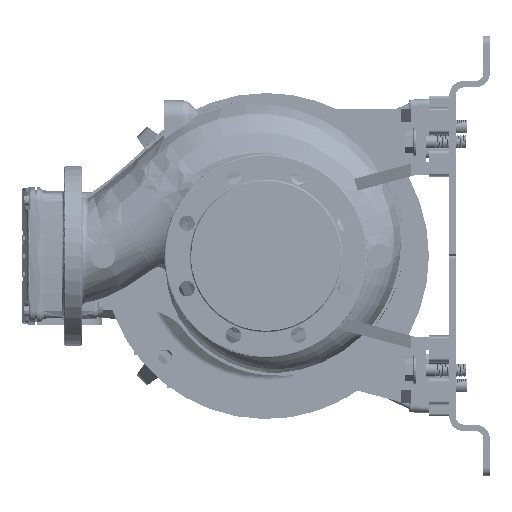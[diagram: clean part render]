
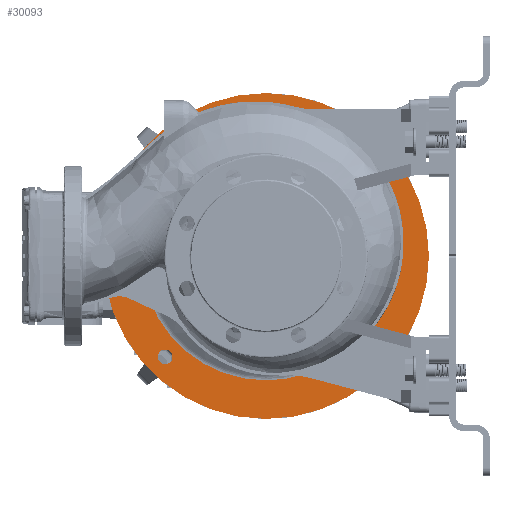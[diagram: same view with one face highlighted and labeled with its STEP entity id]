
A CAD part, left-side view. The second image highlights one B-rep face of the part: STEP entity #30093.
In plain terms, the highlighted planar face has unit normal (-1, 0, 0).
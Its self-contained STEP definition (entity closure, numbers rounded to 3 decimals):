
#229 = CARTESIAN_POINT ( 'NONE',  ( 249., 123.744, 114.745 ) ) ;
#2735 = VERTEX_POINT ( 'NONE', #158953 ) ;
#8495 = VERTEX_POINT ( 'NONE', #102872 ) ;
#9421 = VERTEX_POINT ( 'NONE', #129720 ) ;
#10210 = VERTEX_POINT ( 'NONE', #260631 ) ;
#11589 = EDGE_CURVE ( 'NONE', #8495, #162959, #94295, .T. ) ;
#14947 = CARTESIAN_POINT ( 'NONE',  ( 249., -123.744, 123.745 ) ) ;
#16327 = EDGE_LOOP ( 'NONE', ( #130580, #213344 ) ) ;
#17205 = AXIS2_PLACEMENT_3D ( 'NONE', #23257, #69220, #250083 ) ;
#17397 = CARTESIAN_POINT ( 'NONE',  ( 249., -123.744, -123.743 ) ) ;
#17878 = DIRECTION ( 'NONE',  ( 1., 0., 0. ) ) ;
#18025 = CIRCLE ( 'NONE', #107955, 9. ) ;
#20113 = DIRECTION ( 'NONE',  ( 1., 0., 0. ) ) ;
#20553 = AXIS2_PLACEMENT_3D ( 'NONE', #120957, #279648, #169847 ) ;
#23257 = CARTESIAN_POINT ( 'NONE',  ( 249., 0., 0.001 ) ) ;
#23343 = ORIENTED_EDGE ( 'NONE', *, *, #172162, .T. ) ;
#25852 = DIRECTION ( 'NONE',  ( 0., 0., 1. ) ) ;
#26852 = ORIENTED_EDGE ( 'NONE', *, *, #184901, .T. ) ;
#27019 = DIRECTION ( 'NONE',  ( 0., 0., 1. ) ) ;
#30093 = ADVANCED_FACE ( 'NONE', ( #141722, #97289, #258873, #232175, #52811, #189161 ), #236561, .T. ) ;
#34638 = CARTESIAN_POINT ( 'NONE',  ( 249., -151.792, 16.439 ) ) ;
#39330 = DIRECTION ( 'NONE',  ( 1., 0., 0. ) ) ;
#40557 = AXIS2_PLACEMENT_3D ( 'NONE', #14947, #17878, #172044 ) ;
#40803 = DIRECTION ( 'NONE',  ( 0., 0., 1. ) ) ;
#41234 = CARTESIAN_POINT ( 'NONE',  ( 249., -123.744, 114.745 ) ) ;
#43069 = DIRECTION ( 'NONE',  ( 0., 0., -1. ) ) ;
#46988 = CIRCLE ( 'NONE', #250605, 152.679 ) ;
#48656 = VERTEX_POINT ( 'NONE', #102229 ) ;
#49246 = DIRECTION ( 'NONE',  ( 1., 0., 0. ) ) ;
#52811 = FACE_BOUND ( 'NONE', #208043, .T. ) ;
#53235 = CARTESIAN_POINT ( 'NONE',  ( 249., -123.744, -132.743 ) ) ;
#63167 = AXIS2_PLACEMENT_3D ( 'NONE', #17397, #107794, #112155 ) ;
#68038 = CARTESIAN_POINT ( 'NONE',  ( 249., 0., 0.001 ) ) ;
#69220 = DIRECTION ( 'NONE',  ( 1., 0., 0. ) ) ;
#73587 = DIRECTION ( 'NONE',  ( 1., 0., 0. ) ) ;
#73796 = CIRCLE ( 'NONE', #40557, 9. ) ;
#79225 = ORIENTED_EDGE ( 'NONE', *, *, #237208, .T. ) ;
#81215 = CIRCLE ( 'NONE', #119072, 152.679 ) ;
#86807 = DIRECTION ( 'NONE',  ( 0., 0., 1. ) ) ;
#88598 = VERTEX_POINT ( 'NONE', #41234 ) ;
#91098 = CIRCLE ( 'NONE', #204699, 9. ) ;
#93739 = EDGE_LOOP ( 'NONE', ( #23343, #147979 ) ) ;
#94009 = CIRCLE ( 'NONE', #183921, 23.5 ) ;
#94295 = CIRCLE ( 'NONE', #217427, 152.679 ) ;
#95812 = DIRECTION ( 'NONE',  ( 0., 0., -1. ) ) ;
#96456 = EDGE_CURVE ( 'NONE', #2735, #252008, #275144, .T. ) ;
#97289 = FACE_BOUND ( 'NONE', #93739, .T. ) ;
#102229 = CARTESIAN_POINT ( 'NONE',  ( 249., -123.744, -114.743 ) ) ;
#102872 = CARTESIAN_POINT ( 'NONE',  ( 249., 0., -152.678 ) ) ;
#103725 = VERTEX_POINT ( 'NONE', #243840 ) ;
#104519 = AXIS2_PLACEMENT_3D ( 'NONE', #68038, #158438, #199987 ) ;
#107794 = DIRECTION ( 'NONE',  ( 1., 0., 0. ) ) ;
#107955 = AXIS2_PLACEMENT_3D ( 'NONE', #222408, #269888, #289208 ) ;
#111872 = CARTESIAN_POINT ( 'NONE',  ( 249., -134.998, 0.001 ) ) ;
#112155 = DIRECTION ( 'NONE',  ( 0., 0., 1. ) ) ;
#115207 = CIRCLE ( 'NONE', #63167, 9. ) ;
#117307 = ORIENTED_EDGE ( 'NONE', *, *, #279714, .T. ) ;
#119072 = AXIS2_PLACEMENT_3D ( 'NONE', #246189, #271381, #43069 ) ;
#119286 = EDGE_LOOP ( 'NONE', ( #136022, #139346 ) ) ;
#120957 = CARTESIAN_POINT ( 'NONE',  ( 249., 200., 0.001 ) ) ;
#122315 = DIRECTION ( 'NONE',  ( 0., 0., -1. ) ) ;
#129720 = CARTESIAN_POINT ( 'NONE',  ( 249., 123.744, 132.745 ) ) ;
#130580 = ORIENTED_EDGE ( 'NONE', *, *, #287646, .T. ) ;
#130694 = VERTEX_POINT ( 'NONE', #53235 ) ;
#136022 = ORIENTED_EDGE ( 'NONE', *, *, #96456, .F. ) ;
#137092 = CARTESIAN_POINT ( 'NONE',  ( 249., 123.744, -123.743 ) ) ;
#138613 = ORIENTED_EDGE ( 'NONE', *, *, #165146, .T. ) ;
#139346 = ORIENTED_EDGE ( 'NONE', *, *, #163252, .F. ) ;
#141722 = FACE_OUTER_BOUND ( 'NONE', #119286, .T. ) ;
#143012 = DIRECTION ( 'NONE',  ( 1., 0., 0. ) ) ;
#143590 = VERTEX_POINT ( 'NONE', #145420 ) ;
#144629 = CARTESIAN_POINT ( 'NONE',  ( 249., 0., 0.001 ) ) ;
#144942 = CIRCLE ( 'NONE', #17205, 200. ) ;
#145420 = CARTESIAN_POINT ( 'NONE',  ( 249., -123.744, 132.745 ) ) ;
#147979 = ORIENTED_EDGE ( 'NONE', *, *, #228026, .T. ) ;
#153436 = CIRCLE ( 'NONE', #252740, 9. ) ;
#158438 = DIRECTION ( 'NONE',  ( 1., 0., 0. ) ) ;
#158953 = CARTESIAN_POINT ( 'NONE',  ( 249., 0., -199.999 ) ) ;
#160750 = DIRECTION ( 'NONE',  ( 1., 0., 0. ) ) ;
#162959 = VERTEX_POINT ( 'NONE', #182550 ) ;
#163252 = EDGE_CURVE ( 'NONE', #252008, #2735, #144942, .T. ) ;
#165125 = CARTESIAN_POINT ( 'NONE',  ( 249., -151.792, -16.437 ) ) ;
#165146 = EDGE_CURVE ( 'NONE', #9421, #216739, #18025, .T. ) ;
#169847 = DIRECTION ( 'NONE',  ( 0., 0., 1. ) ) ;
#170255 = EDGE_CURVE ( 'NONE', #48656, #130694, #284574, .T. ) ;
#172044 = DIRECTION ( 'NONE',  ( 0., 0., 1. ) ) ;
#172162 = EDGE_CURVE ( 'NONE', #10210, #103725, #91098, .T. ) ;
#180184 = AXIS2_PLACEMENT_3D ( 'NONE', #187541, #143012, #278043 ) ;
#182550 = CARTESIAN_POINT ( 'NONE',  ( 249., 0., 152.681 ) ) ;
#183921 = AXIS2_PLACEMENT_3D ( 'NONE', #111872, #39330, #40803 ) ;
#184901 = EDGE_CURVE ( 'NONE', #269237, #274033, #94009, .T. ) ;
#187541 = CARTESIAN_POINT ( 'NONE',  ( 249., -123.744, 123.745 ) ) ;
#189161 = FACE_BOUND ( 'NONE', #285288, .T. ) ;
#192884 = ORIENTED_EDGE ( 'NONE', *, *, #230305, .T. ) ;
#199987 = DIRECTION ( 'NONE',  ( 0., 0., -1. ) ) ;
#201634 = CARTESIAN_POINT ( 'NONE',  ( 249., 0., 200.001 ) ) ;
#202552 = ORIENTED_EDGE ( 'NONE', *, *, #289675, .T. ) ;
#204699 = AXIS2_PLACEMENT_3D ( 'NONE', #137092, #289947, #86807 ) ;
#208043 = EDGE_LOOP ( 'NONE', ( #202552, #247130 ) ) ;
#208953 = AXIS2_PLACEMENT_3D ( 'NONE', #252376, #49246, #27019 ) ;
#213344 = ORIENTED_EDGE ( 'NONE', *, *, #243984, .T. ) ;
#216739 = VERTEX_POINT ( 'NONE', #229 ) ;
#217427 = AXIS2_PLACEMENT_3D ( 'NONE', #144629, #73587, #95812 ) ;
#220260 = CARTESIAN_POINT ( 'NONE',  ( 249., 123.744, 123.745 ) ) ;
#222408 = CARTESIAN_POINT ( 'NONE',  ( 249., 123.744, 123.745 ) ) ;
#227575 = CIRCLE ( 'NONE', #180184, 9. ) ;
#228026 = EDGE_CURVE ( 'NONE', #103725, #10210, #153436, .T. ) ;
#228936 = CARTESIAN_POINT ( 'NONE',  ( 249., 123.744, -123.743 ) ) ;
#230305 = EDGE_CURVE ( 'NONE', #274033, #8495, #46988, .T. ) ;
#232175 = FACE_BOUND ( 'NONE', #16327, .T. ) ;
#234926 = EDGE_LOOP ( 'NONE', ( #117307, #138613 ) ) ;
#234979 = CARTESIAN_POINT ( 'NONE',  ( 249., 0., 0.001 ) ) ;
#236561 = PLANE ( 'NONE',  #20553 ) ;
#237208 = EDGE_CURVE ( 'NONE', #162959, #269237, #81215, .T. ) ;
#243840 = CARTESIAN_POINT ( 'NONE',  ( 249., 123.744, -114.743 ) ) ;
#243984 = EDGE_CURVE ( 'NONE', #143590, #88598, #73796, .T. ) ;
#246189 = CARTESIAN_POINT ( 'NONE',  ( 249., 0., 0.001 ) ) ;
#247130 = ORIENTED_EDGE ( 'NONE', *, *, #170255, .T. ) ;
#250083 = DIRECTION ( 'NONE',  ( 0., 0., -1. ) ) ;
#250605 = AXIS2_PLACEMENT_3D ( 'NONE', #234979, #276620, #122315 ) ;
#252008 = VERTEX_POINT ( 'NONE', #201634 ) ;
#252376 = CARTESIAN_POINT ( 'NONE',  ( 249., -123.744, -123.743 ) ) ;
#252740 = AXIS2_PLACEMENT_3D ( 'NONE', #228936, #160750, #25852 ) ;
#258873 = FACE_BOUND ( 'NONE', #234926, .T. ) ;
#259240 = CIRCLE ( 'NONE', #292469, 9. ) ;
#260631 = CARTESIAN_POINT ( 'NONE',  ( 249., 123.744, -132.743 ) ) ;
#262704 = ORIENTED_EDGE ( 'NONE', *, *, #11589, .T. ) ;
#267736 = DIRECTION ( 'NONE',  ( 0., 0., 1. ) ) ;
#269237 = VERTEX_POINT ( 'NONE', #34638 ) ;
#269888 = DIRECTION ( 'NONE',  ( 1., 0., 0. ) ) ;
#271381 = DIRECTION ( 'NONE',  ( 1., 0., 0. ) ) ;
#274033 = VERTEX_POINT ( 'NONE', #165125 ) ;
#275144 = CIRCLE ( 'NONE', #104519, 200. ) ;
#276620 = DIRECTION ( 'NONE',  ( 1., 0., 0. ) ) ;
#278043 = DIRECTION ( 'NONE',  ( 0., 0., 1. ) ) ;
#279648 = DIRECTION ( 'NONE',  ( -1., 0., 0. ) ) ;
#279714 = EDGE_CURVE ( 'NONE', #216739, #9421, #259240, .T. ) ;
#284574 = CIRCLE ( 'NONE', #208953, 9. ) ;
#285288 = EDGE_LOOP ( 'NONE', ( #192884, #262704, #79225, #26852 ) ) ;
#287646 = EDGE_CURVE ( 'NONE', #88598, #143590, #227575, .T. ) ;
#289208 = DIRECTION ( 'NONE',  ( 0., 0., 1. ) ) ;
#289675 = EDGE_CURVE ( 'NONE', #130694, #48656, #115207, .T. ) ;
#289947 = DIRECTION ( 'NONE',  ( 1., 0., 0. ) ) ;
#292469 = AXIS2_PLACEMENT_3D ( 'NONE', #220260, #20113, #267736 ) ;
